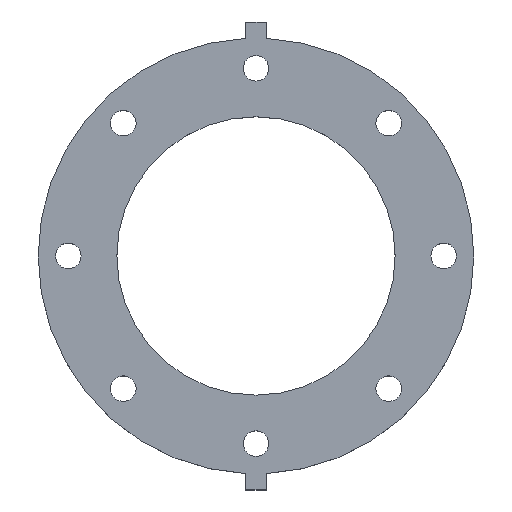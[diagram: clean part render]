
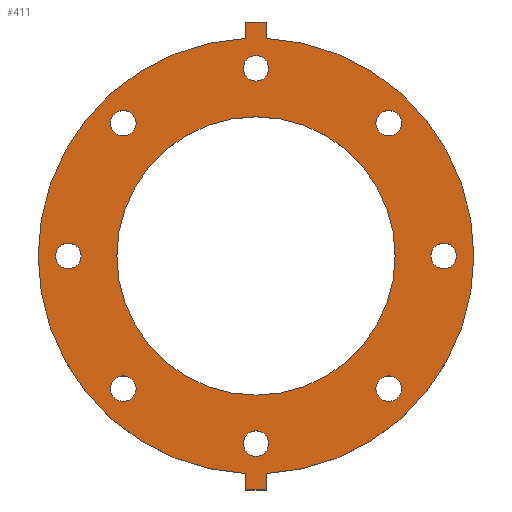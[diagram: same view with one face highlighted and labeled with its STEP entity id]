
A CAD part, top view. The second image highlights one B-rep face of the part: STEP entity #411.
In plain terms, the highlighted planar face has unit normal (0, 0, 1).
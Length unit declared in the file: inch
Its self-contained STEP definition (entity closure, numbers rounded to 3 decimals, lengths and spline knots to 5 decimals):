
#14=FACE_BOUND('',#77,.T.);
#15=FACE_BOUND('',#78,.T.);
#16=FACE_BOUND('',#79,.T.);
#17=FACE_BOUND('',#80,.T.);
#18=FACE_BOUND('',#81,.T.);
#19=FACE_BOUND('',#82,.T.);
#20=FACE_BOUND('',#83,.T.);
#21=FACE_BOUND('',#84,.T.);
#22=FACE_BOUND('',#85,.T.);
#38=PLANE('',#472);
#57=FACE_OUTER_BOUND('',#76,.T.);
#76=EDGE_LOOP('',(#329,#330,#331,#332,#333,#334,#335,#336));
#77=EDGE_LOOP('',(#337));
#78=EDGE_LOOP('',(#338));
#79=EDGE_LOOP('',(#339));
#80=EDGE_LOOP('',(#340));
#81=EDGE_LOOP('',(#341));
#82=EDGE_LOOP('',(#342));
#83=EDGE_LOOP('',(#343));
#84=EDGE_LOOP('',(#344));
#85=EDGE_LOOP('',(#345));
#111=LINE('',#665,#140);
#113=LINE('',#670,#142);
#116=LINE('',#674,#145);
#119=LINE('',#682,#148);
#122=LINE('',#686,#151);
#124=LINE('',#689,#153);
#140=VECTOR('',#559,0.3937);
#142=VECTOR('',#563,0.3937);
#145=VECTOR('',#568,0.3937);
#148=VECTOR('',#573,0.3937);
#151=VECTOR('',#578,0.3937);
#153=VECTOR('',#582,0.3937);
#154=CIRCLE('',#434,0.395);
#156=CIRCLE('',#437,0.395);
#158=CIRCLE('',#440,0.395);
#160=CIRCLE('',#443,0.395);
#162=CIRCLE('',#446,0.395);
#164=CIRCLE('',#449,0.395);
#166=CIRCLE('',#452,0.395);
#168=CIRCLE('',#455,0.395);
#171=CIRCLE('',#459,4.3125);
#173=CIRCLE('',#462,6.75);
#174=CIRCLE('',#464,6.75);
#176=VERTEX_POINT('',#589);
#178=VERTEX_POINT('',#595);
#180=VERTEX_POINT('',#601);
#182=VERTEX_POINT('',#607);
#184=VERTEX_POINT('',#613);
#186=VERTEX_POINT('',#619);
#188=VERTEX_POINT('',#625);
#190=VERTEX_POINT('',#631);
#193=VERTEX_POINT('',#639);
#195=VERTEX_POINT('',#644);
#197=VERTEX_POINT('',#648);
#199=VERTEX_POINT('',#653);
#200=VERTEX_POINT('',#655);
#203=VERTEX_POINT('',#663);
#205=VERTEX_POINT('',#669);
#208=VERTEX_POINT('',#679);
#209=VERTEX_POINT('',#681);
#210=EDGE_CURVE('',#176,#176,#154,.T.);
#213=EDGE_CURVE('',#178,#178,#156,.T.);
#216=EDGE_CURVE('',#180,#180,#158,.T.);
#219=EDGE_CURVE('',#182,#182,#160,.T.);
#222=EDGE_CURVE('',#184,#184,#162,.T.);
#225=EDGE_CURVE('',#186,#186,#164,.T.);
#228=EDGE_CURVE('',#188,#188,#166,.T.);
#231=EDGE_CURVE('',#190,#190,#168,.T.);
#236=EDGE_CURVE('',#193,#193,#171,.T.);
#240=EDGE_CURVE('',#195,#197,#173,.T.);
#242=EDGE_CURVE('',#200,#199,#174,.T.);
#247=EDGE_CURVE('',#197,#203,#111,.T.);
#249=EDGE_CURVE('',#205,#200,#113,.T.);
#252=EDGE_CURVE('',#203,#205,#116,.T.);
#255=EDGE_CURVE('',#209,#208,#119,.T.);
#258=EDGE_CURVE('',#199,#209,#122,.T.);
#260=EDGE_CURVE('',#208,#195,#124,.T.);
#329=ORIENTED_EDGE('',*,*,#260,.T.);
#330=ORIENTED_EDGE('',*,*,#240,.T.);
#331=ORIENTED_EDGE('',*,*,#247,.T.);
#332=ORIENTED_EDGE('',*,*,#252,.T.);
#333=ORIENTED_EDGE('',*,*,#249,.T.);
#334=ORIENTED_EDGE('',*,*,#242,.T.);
#335=ORIENTED_EDGE('',*,*,#258,.T.);
#336=ORIENTED_EDGE('',*,*,#255,.T.);
#337=ORIENTED_EDGE('',*,*,#210,.T.);
#338=ORIENTED_EDGE('',*,*,#213,.T.);
#339=ORIENTED_EDGE('',*,*,#216,.T.);
#340=ORIENTED_EDGE('',*,*,#219,.T.);
#341=ORIENTED_EDGE('',*,*,#222,.T.);
#342=ORIENTED_EDGE('',*,*,#225,.T.);
#343=ORIENTED_EDGE('',*,*,#228,.T.);
#344=ORIENTED_EDGE('',*,*,#231,.T.);
#345=ORIENTED_EDGE('',*,*,#236,.T.);
#411=ADVANCED_FACE('',(#57,#14,#15,#16,#17,#18,#19,#20,#21,#22),#38,.T.);
#434=AXIS2_PLACEMENT_3D('',#590,#478,#479);
#437=AXIS2_PLACEMENT_3D('',#596,#485,#486);
#440=AXIS2_PLACEMENT_3D('',#602,#492,#493);
#443=AXIS2_PLACEMENT_3D('',#608,#499,#500);
#446=AXIS2_PLACEMENT_3D('',#614,#506,#507);
#449=AXIS2_PLACEMENT_3D('',#620,#513,#514);
#452=AXIS2_PLACEMENT_3D('',#626,#520,#521);
#455=AXIS2_PLACEMENT_3D('',#632,#527,#528);
#459=AXIS2_PLACEMENT_3D('',#641,#537,#538);
#462=AXIS2_PLACEMENT_3D('',#650,#545,#546);
#464=AXIS2_PLACEMENT_3D('',#656,#550,#551);
#472=AXIS2_PLACEMENT_3D('',#690,#583,#584);
#478=DIRECTION('center_axis',(0.,0.,-1.));
#479=DIRECTION('ref_axis',(-0.707,-0.707,0.));
#485=DIRECTION('center_axis',(0.,0.,-1.));
#486=DIRECTION('ref_axis',(-1.,0.,0.));
#492=DIRECTION('center_axis',(0.,0.,-1.));
#493=DIRECTION('ref_axis',(-0.707,0.707,0.));
#499=DIRECTION('center_axis',(0.,0.,-1.));
#500=DIRECTION('ref_axis',(0.,1.,0.));
#506=DIRECTION('center_axis',(0.,0.,-1.));
#507=DIRECTION('ref_axis',(0.707,0.707,0.));
#513=DIRECTION('center_axis',(0.,0.,-1.));
#514=DIRECTION('ref_axis',(1.,0.,0.));
#520=DIRECTION('center_axis',(0.,0.,-1.));
#521=DIRECTION('ref_axis',(0.707,-0.707,0.));
#527=DIRECTION('center_axis',(0.,0.,-1.));
#528=DIRECTION('ref_axis',(0.,-1.,0.));
#537=DIRECTION('center_axis',(0.,0.,-1.));
#538=DIRECTION('ref_axis',(0.,-1.,0.));
#545=DIRECTION('center_axis',(0.,0.,1.));
#546=DIRECTION('ref_axis',(0.,1.,0.));
#550=DIRECTION('center_axis',(0.,0.,1.));
#551=DIRECTION('ref_axis',(0.,1.,0.));
#559=DIRECTION('',(0.,-1.,0.));
#563=DIRECTION('',(0.,1.,0.));
#568=DIRECTION('',(1.,0.,0.));
#573=DIRECTION('',(-1.,0.,0.));
#578=DIRECTION('',(0.,1.,0.));
#582=DIRECTION('',(0.,-1.,0.));
#583=DIRECTION('center_axis',(0.,0.,1.));
#584=DIRECTION('ref_axis',(0.,1.,0.));
#589=CARTESIAN_POINT('',(-3.83252,4.39113,1.13));
#590=CARTESIAN_POINT('Origin',(-4.11183,4.11183,1.13));
#595=CARTESIAN_POINT('',(0.395,5.815,1.13));
#596=CARTESIAN_POINT('Origin',(0.,5.815,1.13));
#601=CARTESIAN_POINT('',(4.39113,3.83252,1.13));
#602=CARTESIAN_POINT('Origin',(4.11183,4.11183,1.13));
#607=CARTESIAN_POINT('',(5.815,-0.395,1.13));
#608=CARTESIAN_POINT('Origin',(5.815,0.,1.13));
#613=CARTESIAN_POINT('',(3.83252,-4.39113,1.13));
#614=CARTESIAN_POINT('Origin',(4.11183,-4.11183,1.13));
#619=CARTESIAN_POINT('',(-0.395,-5.815,1.13));
#620=CARTESIAN_POINT('Origin',(0.,-5.815,1.13));
#625=CARTESIAN_POINT('',(-4.39113,-3.83252,1.13));
#626=CARTESIAN_POINT('Origin',(-4.11183,-4.11183,1.13));
#631=CARTESIAN_POINT('',(-5.815,0.395,1.13));
#632=CARTESIAN_POINT('Origin',(-5.815,0.,1.13));
#639=CARTESIAN_POINT('',(0.,4.3125,1.13));
#641=CARTESIAN_POINT('Origin',(0.,0.,1.13));
#644=CARTESIAN_POINT('',(-0.32,6.74241,1.13));
#648=CARTESIAN_POINT('',(-0.32,-6.74241,1.13));
#650=CARTESIAN_POINT('Origin',(0.,0.,1.13));
#653=CARTESIAN_POINT('',(0.32,6.74241,1.13));
#655=CARTESIAN_POINT('',(0.32,-6.74241,1.13));
#656=CARTESIAN_POINT('Origin',(0.,0.,1.13));
#663=CARTESIAN_POINT('',(-0.32,-7.25,1.13));
#665=CARTESIAN_POINT('',(-0.32,-6.74241,1.13));
#669=CARTESIAN_POINT('',(0.32,-7.25,1.13));
#670=CARTESIAN_POINT('',(0.32,-7.25,1.13));
#674=CARTESIAN_POINT('',(-0.32,-7.25,1.13));
#679=CARTESIAN_POINT('',(-0.32,7.25,1.13));
#681=CARTESIAN_POINT('',(0.32,7.25,1.13));
#682=CARTESIAN_POINT('',(0.32,7.25,1.13));
#686=CARTESIAN_POINT('',(0.32,6.74241,1.13));
#689=CARTESIAN_POINT('',(-0.32,7.25,1.13));
#690=CARTESIAN_POINT('Origin',(0.,7.01634,1.13));
